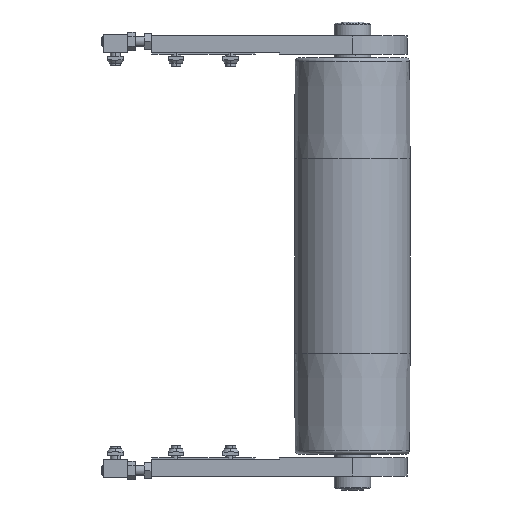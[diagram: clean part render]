
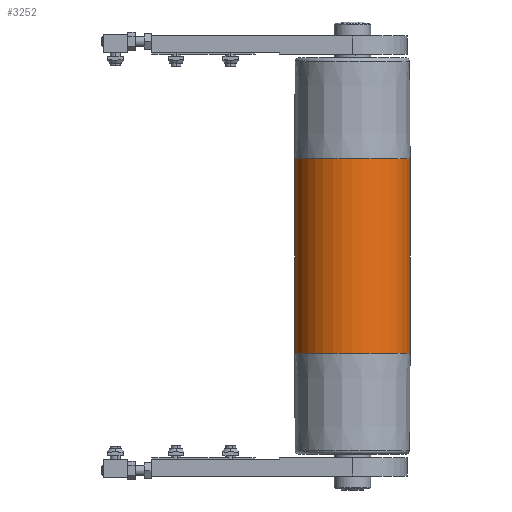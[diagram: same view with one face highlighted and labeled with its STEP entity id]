
A CAD part, front view. The second image highlights one B-rep face of the part: STEP entity #3252.
In plain terms, the highlighted cylindrical face has radius 47.5 mm (diameter 95 mm), a partial arc.
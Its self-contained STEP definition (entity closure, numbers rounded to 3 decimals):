
#274 = VERTEX_POINT ( 'NONE', #3948 ) ;
#373 = ORIENTED_EDGE ( 'NONE', *, *, #2929, .F. ) ;
#567 = CARTESIAN_POINT ( 'NONE',  ( -80., 0., 0. ) ) ;
#947 = CARTESIAN_POINT ( 'NONE',  ( 80., 0., 0. ) ) ;
#948 = ORIENTED_EDGE ( 'NONE', *, *, #6523, .F. ) ;
#1035 = DIRECTION ( 'NONE',  ( -1., 0., 0. ) ) ;
#1756 = DIRECTION ( 'NONE',  ( 0., 0., -1. ) ) ;
#2668 = DIRECTION ( 'NONE',  ( -1., 0., 0. ) ) ;
#2757 = DIRECTION ( 'NONE',  ( 1., 0., 0. ) ) ;
#2929 = EDGE_CURVE ( 'NONE', #12189, #8706, #6718, .T. ) ;
#3252 = ADVANCED_FACE ( 'NONE', ( #12732 ), #6702, .T. ) ;
#3396 = LINE ( 'NONE', #12089, #5515 ) ;
#3854 = CARTESIAN_POINT ( 'NONE',  ( 160., 0., 0. ) ) ;
#3948 = CARTESIAN_POINT ( 'NONE',  ( -80., 0., -47.5 ) ) ;
#4687 = DIRECTION ( 'NONE',  ( -1., 0., 0. ) ) ;
#5515 = VECTOR ( 'NONE', #2668, 1000. ) ;
#5847 = EDGE_CURVE ( 'NONE', #12189, #9618, #13356, .T. ) ;
#6523 = EDGE_CURVE ( 'NONE', #8706, #274, #3396, .T. ) ;
#6702 = CYLINDRICAL_SURFACE ( 'NONE', #12909, 47.5 ) ;
#6718 = CIRCLE ( 'NONE', #13159, 47.5 ) ;
#6792 = DIRECTION ( 'NONE',  ( 0., 0., 1. ) ) ;
#7136 = EDGE_LOOP ( 'NONE', ( #948, #373, #7409, #10698 ) ) ;
#7248 = CARTESIAN_POINT ( 'NONE',  ( 80., 0., -47.5 ) ) ;
#7409 = ORIENTED_EDGE ( 'NONE', *, *, #5847, .T. ) ;
#8462 = EDGE_CURVE ( 'NONE', #9618, #274, #13341, .T. ) ;
#8706 = VERTEX_POINT ( 'NONE', #7248 ) ;
#9618 = VERTEX_POINT ( 'NONE', #12296 ) ;
#10698 = ORIENTED_EDGE ( 'NONE', *, *, #8462, .T. ) ;
#10738 = DIRECTION ( 'NONE',  ( 0., 0., -1. ) ) ;
#11617 = CARTESIAN_POINT ( 'NONE',  ( 80., 0., 47.5 ) ) ;
#12089 = CARTESIAN_POINT ( 'NONE',  ( 160., 0., -47.5 ) ) ;
#12189 = VERTEX_POINT ( 'NONE', #11617 ) ;
#12296 = CARTESIAN_POINT ( 'NONE',  ( -80., 0., 47.5 ) ) ;
#12385 = AXIS2_PLACEMENT_3D ( 'NONE', #567, #2757, #1756 ) ;
#12527 = VECTOR ( 'NONE', #1035, 1000. ) ;
#12651 = DIRECTION ( 'NONE',  ( 1., 0., 0. ) ) ;
#12732 = FACE_OUTER_BOUND ( 'NONE', #7136, .T. ) ;
#12909 = AXIS2_PLACEMENT_3D ( 'NONE', #3854, #4687, #6792 ) ;
#13159 = AXIS2_PLACEMENT_3D ( 'NONE', #947, #12651, #10738 ) ;
#13341 = CIRCLE ( 'NONE', #12385, 47.5 ) ;
#13356 = LINE ( 'NONE', #13724, #12527 ) ;
#13724 = CARTESIAN_POINT ( 'NONE',  ( 160., 0., 47.5 ) ) ;
